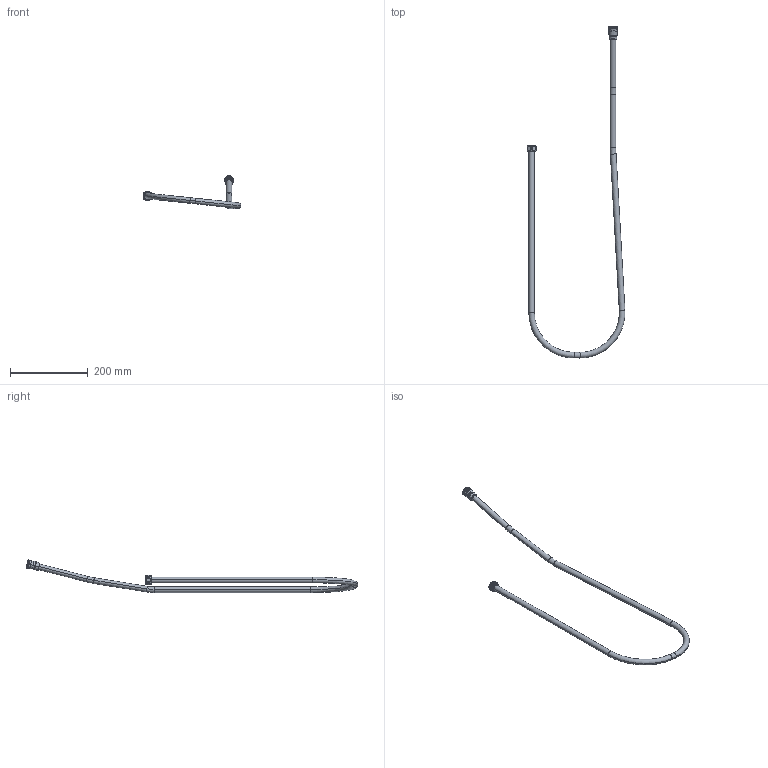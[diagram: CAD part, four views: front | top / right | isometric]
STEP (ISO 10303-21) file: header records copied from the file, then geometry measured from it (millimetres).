
FILE_DESCRIPTION((''),'2;1');
FILE_NAME('76652_SPRAY_ASM','2022-06-14T08:09:45',('sosm1'),(''),'CREO PARAMETRIC BY PTC INC, 2018190','CREO PARAMETRIC BY PTC INC, 2018190','');
FILE_SCHEMA(('CONFIG_CONTROL_DESIGN'));
Length unit declared in the file: millimetre
Products named in the file (4): 76652_SLANGE; 76650_POS11; 76650_POS6; 76652_SPRAY_ASM
Assembly tree (3 placements, depth 2):
  76652_SPRAY_ASM
    76652_SLANGE
    76650_POS11
    76650_POS6
Bounding box: 252.12 x 855.95 x 85.27 mm (x, y, z)
Volume: 252897.5 mm3; surface area: 75934.4 mm2
Topology: 3 solids, 3 shells, 102 faces, 226 edges, 142 vertices
Faces by surface type: cylinder 36, plane 23, cone 20, torus 12, bspline 11
Entity records: 6127 total; most frequent: CARTESIAN_POINT 3832, DIRECTION 456, ORIENTED_EDGE 452, EDGE_CURVE 226, AXIS2_PLACEMENT_3D 197, VERTEX_POINT 142, EDGE_LOOP 118, FACE_OUTER_BOUND 102
